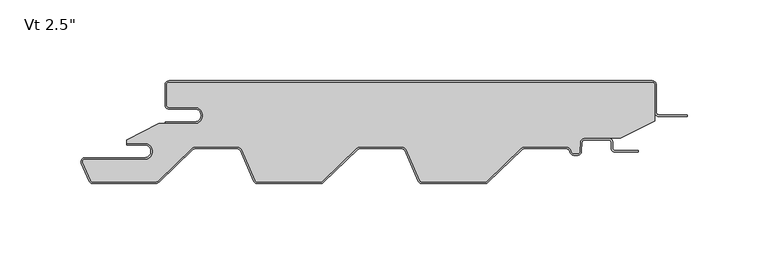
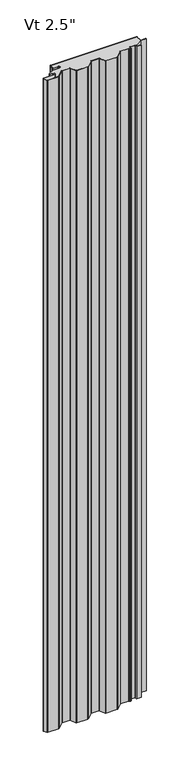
"""IFC4 building model written with IfcOpenShell, lengths in millimetres: plate geometry."""

from ifc_helpers import new_model, si_unit, point, frame_2d, origin, origin_with_axes, place, context, project, spatial, polyline, circle_curve, trimmed, segment, composite_curve, outline, extrude, source, transform, mapped, element, save


def plate_76acf641(model_context):
    return source(origin(), model_context, "Body", "SweptSolid", [
        extrude(outline(composite_curve([segment(trimmed(circle_curve(frame_2d((-133.34375, -21.4324412)), 4.96875), [point((-133.34375, -26.4011912))], [point((-133.34375, -16.4636912))], True, "CARTESIAN"), True, "CONTINUOUS"), segment(polyline([(-133.34375, -16.4636912), (-149.21875, -16.4636912)]), True, "CONTINUOUS"), segment(trimmed(circle_curve(frame_2d((-149.21875, -15.0824412)), 1.38125), [point((-149.21875, -16.4636912))], [point((-150.6, -15.0824412))], False, "CARTESIAN"), True, "CONTINUOUS"), segment(polyline([(-150.6, -15.0824412), (-150.6, -2.3824412)]), True, "CONTINUOUS"), segment(trimmed(circle_curve(frame_2d((-149.21875, -2.3824412)), 1.38125), [point((-150.6, -2.3824412))], [point((-149.21875, -1.0011912))], False, "CARTESIAN"), True, "CONTINUOUS"), segment(polyline([(-149.21875, -1.0011912), (149.23125, -1.0011912)]), True, "CONTINUOUS"), segment(trimmed(circle_curve(frame_2d((149.23125, -2.3824412)), 1.38125), [point((149.23125, -1.0011912))], [point((150.6125, -2.3824412))], False, "CARTESIAN"), True, "CONTINUOUS"), segment(polyline([(150.6125, -2.3824412), (150.6125, -24.8719682), (129.7955434, -35.5136912), (107.3683457, -35.5136912)]), True, "CONTINUOUS"), segment(trimmed(circle_curve(frame_2d((107.3683457, -38.1011912)), 2.5875), [point((107.3683457, -35.5136912))], [point((104.7843918, -37.9657719))], True, "CARTESIAN"), True, "CONTINUOUS"), segment(polyline([(104.7843918, -37.9657719), (104.4823155, -43.7297302)]), True, "CONTINUOUS"), segment(trimmed(circle_curve(frame_2d((103.1029585, -43.6574412)), 1.38125), [point((104.4823155, -43.7297302))], [point((103.1029585, -45.0386912))], False, "CARTESIAN"), True, "CONTINUOUS"), segment(polyline([(103.1029585, -45.0386912), (100.7754519, -45.0386912)]), True, "CONTINUOUS"), segment(trimmed(circle_curve(frame_2d((100.7754519, -43.6574412)), 1.38125), [point((100.7754519, -45.0386912))], [point((99.5124516, -44.2166208))], False, "CARTESIAN"), True, "CONTINUOUS"), segment(polyline([(99.5124516, -44.2166208), (98.7640306, -42.5261871)]), True, "CONTINUOUS"), segment(trimmed(circle_curve(frame_2d((96.3980481, -43.5737)), 2.5875), [point((98.7640306, -42.5261871))], [point((96.3980481, -40.9862))], True, "CARTESIAN"), True, "CONTINUOUS"), segment(polyline([(96.3980481, -40.9862), (69.8742003, -40.9862)]), True, "CONTINUOUS"), segment(trimmed(circle_curve(frame_2d((69.8742003, -43.5737)), 2.5875), [point((69.8742003, -40.9862))], [point((68.0745496, -41.7145567))], True, "CARTESIAN"), True, "CONTINUOUS"), segment(polyline([(68.0745496, -41.7145567), (47.0036462, -62.1111912)]), True, "CONTINUOUS"), segment(trimmed(circle_curve(frame_2d((46.0429631, -61.11875)), 1.38125), [point((47.0036462, -62.1111912))], [point((46.0429631, -62.5))], False, "CARTESIAN"), True, "CONTINUOUS"), segment(polyline([(46.0429631, -62.5), (6.9062557, -62.5)]), True, "CONTINUOUS"), segment(trimmed(circle_curve(frame_2d((6.9062557, -61.11875)), 1.38125), [point((6.9062557, -62.5))], [point((5.6432554, -61.6779296))], False, "CARTESIAN"), True, "CONTINUOUS"), segment(polyline([(5.6432554, -61.6779296), (-2.8359694, -42.5261871)]), True, "CONTINUOUS"), segment(trimmed(circle_curve(frame_2d((-5.2019519, -43.5737)), 2.5875), [point((-2.8359694, -42.5261871))], [point((-5.2019519, -40.9862))], True, "CARTESIAN"), True, "CONTINUOUS"), segment(polyline([(-5.2019519, -40.9862), (-31.7257997, -40.9862)]), True, "CONTINUOUS"), segment(trimmed(circle_curve(frame_2d((-31.7257997, -43.5737)), 2.5875), [point((-31.7257997, -40.9862))], [point((-33.5254504, -41.7145567))], True, "CARTESIAN"), True, "CONTINUOUS"), segment(polyline([(-33.5254504, -41.7145567), (-54.5963538, -62.1111912)]), True, "CONTINUOUS"), segment(trimmed(circle_curve(frame_2d((-55.5570369, -61.11875)), 1.38125), [point((-54.5963538, -62.1111912))], [point((-55.5570369, -62.5))], False, "CARTESIAN"), True, "CONTINUOUS"), segment(polyline([(-55.5570369, -62.5), (-94.6937443, -62.5)]), True, "CONTINUOUS"), segment(trimmed(circle_curve(frame_2d((-94.6937443, -61.11875)), 1.38125), [point((-94.6937443, -62.5))], [point((-95.9567446, -61.6779296))], False, "CARTESIAN"), True, "CONTINUOUS"), segment(polyline([(-95.9567446, -61.6779296), (-104.4359694, -42.5261871)]), True, "CONTINUOUS"), segment(trimmed(circle_curve(frame_2d((-106.8019519, -43.5737)), 2.5875), [point((-104.4359694, -42.5261871))], [point((-106.8019519, -40.9862))], True, "CARTESIAN"), True, "CONTINUOUS"), segment(polyline([(-106.8019519, -40.9862), (-133.3257997, -40.9862)]), True, "CONTINUOUS"), segment(trimmed(circle_curve(frame_2d((-133.3257997, -43.5737)), 2.5875), [point((-133.3257997, -40.9862))], [point((-135.1254504, -41.7145567))], True, "CARTESIAN"), True, "CONTINUOUS"), segment(polyline([(-135.1254504, -41.7145567), (-155.9876931, -61.9092077)]), True, "CONTINUOUS"), segment(trimmed(circle_curve(frame_2d((-157.4474446, -60.4012)), 2.0988), [point((-155.9876931, -61.9092077))], [point((-157.4474446, -62.5))], False, "CARTESIAN"), True, "CONTINUOUS"), segment(polyline([(-157.4474446, -62.5), (-196.2937443, -62.5)]), True, "CONTINUOUS"), segment(trimmed(circle_curve(frame_2d((-196.2937443, -61.11875)), 1.38125), [point((-196.2937443, -62.5))], [point((-197.5567446, -61.6779296))], False, "CARTESIAN"), True, "CONTINUOUS"), segment(polyline([(-197.5567446, -61.6779296), (-202.4761552, -50.5666208)]), True, "CONTINUOUS"), segment(trimmed(circle_curve(frame_2d((-201.2131549, -50.0074412)), 1.38125), [point((-202.4761552, -50.5666208))], [point((-201.2131549, -48.6261912))], False, "CARTESIAN"), True, "CONTINUOUS"), segment(polyline([(-201.2131549, -48.6261912), (-164.3, -48.6261912)]), True, "CONTINUOUS"), segment(trimmed(circle_curve(frame_2d((-164.3, -43.6574412)), 4.96875), [point((-164.3, -48.6261912))], [point((-164.3, -38.6886912))], True, "CARTESIAN"), True, "CONTINUOUS"), segment(polyline([(-164.3, -38.6886912), (-175.4125, -38.6886912), (-175.4125, -36.533822), (-155.5914112, -26.4011912), (-133.34375, -26.4011912)]), True, "CONTINUOUS")], self_intersect=False)), origin_with_axes(), (0.0, 0.0, 1.0), 2400.0),
        extrude(outline(composite_curve([segment(polyline([(-151.6, -25.4), (-133.34375, -25.4)]), True, "CONTINUOUS"), segment(trimmed(circle_curve(frame_2d((-133.34375, -21.43125)), 3.96875), [point((-133.34375, -25.4))], [point((-133.34375, -17.4625))], True, "CARTESIAN"), True, "CONTINUOUS"), segment(polyline([(-133.34375, -17.4625), (-149.21875, -17.4625)]), True, "CONTINUOUS"), segment(trimmed(circle_curve(frame_2d((-149.21875, -15.08125)), 2.38125), [point((-149.21875, -17.4625))], [point((-151.6, -15.08125))], False, "CARTESIAN"), True, "CONTINUOUS"), segment(polyline([(-151.6, -15.08125), (-151.6, -2.38125)]), True, "CONTINUOUS"), segment(trimmed(circle_curve(frame_2d((-149.21875, -2.38125)), 2.38125), [point((-151.6, -2.38125))], [point((-149.21875, 0.0))], False, "CARTESIAN"), True, "CONTINUOUS"), segment(polyline([(-149.21875, 0.0), (149.23125, 0.0)]), True, "CONTINUOUS"), segment(trimmed(circle_curve(frame_2d((149.23125, -2.38125)), 2.38125), [point((149.23125, 0.0))], [point((151.6125, -2.38125))], False, "CARTESIAN"), True, "CONTINUOUS"), segment(polyline([(151.6125, -2.38125), (151.6125, -19.446875)]), True, "CONTINUOUS"), segment(trimmed(circle_curve(frame_2d((153.2, -19.446875)), 1.5875), [point((151.6125, -19.446875))], [point((153.2, -21.034375))], True, "CARTESIAN"), True, "CONTINUOUS"), segment(polyline([(153.2, -21.034375), (170.6625, -21.034375), (170.6625, -22.034375), (153.2, -22.034375)]), True, "CONTINUOUS"), segment(trimmed(circle_curve(frame_2d((153.2, -19.446875)), 2.5875), [point((153.2, -22.034375))], [point((150.6125, -19.446875))], False, "CARTESIAN"), True, "CONTINUOUS"), segment(polyline([(150.6125, -19.446875), (150.6125, -2.38125)]), True, "CONTINUOUS"), segment(trimmed(circle_curve(frame_2d((149.23125, -2.38125)), 1.38125), [point((150.6125, -2.38125))], [point((149.23125, -1.0))], True, "CARTESIAN"), True, "CONTINUOUS"), segment(polyline([(149.23125, -1.0), (-149.21875, -1.0)]), True, "CONTINUOUS"), segment(trimmed(circle_curve(frame_2d((-149.21875, -2.38125)), 1.38125), [point((-149.21875, -1.0))], [point((-150.6, -2.38125))], True, "CARTESIAN"), True, "CONTINUOUS"), segment(polyline([(-150.6, -2.38125), (-150.6, -15.08125)]), True, "CONTINUOUS"), segment(trimmed(circle_curve(frame_2d((-149.21875, -15.08125)), 1.38125), [point((-150.6, -15.08125))], [point((-149.21875, -16.4625))], True, "CARTESIAN"), True, "CONTINUOUS"), segment(polyline([(-149.21875, -16.4625), (-133.34375, -16.4625)]), True, "CONTINUOUS"), segment(trimmed(circle_curve(frame_2d((-133.34375, -21.43125)), 4.96875), [point((-133.34375, -16.4625))], [point((-133.34375, -26.4))], False, "CARTESIAN"), True, "CONTINUOUS"), segment(polyline([(-133.34375, -26.4), (-151.6, -26.4), (-151.6, -25.4)]), True, "CONTINUOUS")], self_intersect=False)), origin_with_axes(), (0.0, 0.0, 1.0), 2400.0),
        extrude(outline(composite_curve([segment(trimmed(circle_curve(frame_2d((-164.3, -43.6574412)), 3.96875), [point((-164.3, -47.6261912))], [point((-164.3, -39.6886912))], True, "CARTESIAN"), True, "CONTINUOUS"), segment(polyline([(-164.3, -39.6886912), (-175.4125, -39.6886912), (-175.4125, -38.6886912), (-164.3, -38.6886912)]), True, "CONTINUOUS"), segment(trimmed(circle_curve(frame_2d((-164.3, -43.6574412)), 4.96875), [point((-164.3, -38.6886912))], [point((-164.3, -48.6261912))], False, "CARTESIAN"), True, "CONTINUOUS"), segment(polyline([(-164.3, -48.6261912), (-201.2131549, -48.6261912)]), True, "CONTINUOUS"), segment(trimmed(circle_curve(frame_2d((-201.2131549, -50.0074412)), 1.38125), [point((-201.2131549, -48.6261912))], [point((-202.4761552, -50.5666208))], True, "CARTESIAN"), True, "CONTINUOUS"), segment(polyline([(-202.4761552, -50.5666208), (-197.5567446, -61.6779296)]), True, "CONTINUOUS"), segment(trimmed(circle_curve(frame_2d((-196.2937443, -61.11875)), 1.38125), [point((-197.5567446, -61.6779296))], [point((-196.2937443, -62.5))], True, "CARTESIAN"), True, "CONTINUOUS"), segment(polyline([(-196.2937443, -62.5), (-157.4474446, -62.5)]), True, "CONTINUOUS"), segment(trimmed(circle_curve(frame_2d((-157.4474446, -60.4012)), 2.0988), [point((-157.4474446, -62.5))], [point((-155.9876931, -61.9092077))], True, "CARTESIAN"), True, "CONTINUOUS"), segment(polyline([(-155.9876931, -61.9092077), (-135.1254504, -41.7145567)]), True, "CONTINUOUS"), segment(trimmed(circle_curve(frame_2d((-133.3257997, -43.5737)), 2.5875), [point((-135.1254504, -41.7145567))], [point((-133.3257997, -40.9862))], False, "CARTESIAN"), True, "CONTINUOUS"), segment(polyline([(-133.3257997, -40.9862), (-106.8019519, -40.9862)]), True, "CONTINUOUS"), segment(trimmed(circle_curve(frame_2d((-106.8019519, -43.5737)), 2.5875), [point((-106.8019519, -40.9862))], [point((-104.4359694, -42.5261871))], False, "CARTESIAN"), True, "CONTINUOUS"), segment(polyline([(-104.4359694, -42.5261871), (-95.9567446, -61.6779296)]), True, "CONTINUOUS"), segment(trimmed(circle_curve(frame_2d((-94.6937443, -61.11875)), 1.38125), [point((-95.9567446, -61.6779296))], [point((-94.6937443, -62.5))], True, "CARTESIAN"), True, "CONTINUOUS"), segment(polyline([(-94.6937443, -62.5), (-55.5570369, -62.5)]), True, "CONTINUOUS"), segment(trimmed(circle_curve(frame_2d((-55.5570369, -61.11875)), 1.38125), [point((-55.5570369, -62.5))], [point((-54.5963538, -62.1111912))], True, "CARTESIAN"), True, "CONTINUOUS"), segment(polyline([(-54.5963538, -62.1111912), (-33.5254504, -41.7145567)]), True, "CONTINUOUS"), segment(trimmed(circle_curve(frame_2d((-31.7257997, -43.5737)), 2.5875), [point((-33.5254504, -41.7145567))], [point((-31.7257997, -40.9862))], False, "CARTESIAN"), True, "CONTINUOUS"), segment(polyline([(-31.7257997, -40.9862), (-5.2019519, -40.9862)]), True, "CONTINUOUS"), segment(trimmed(circle_curve(frame_2d((-5.2019519, -43.5737)), 2.5875), [point((-5.2019519, -40.9862))], [point((-2.8359694, -42.5261871))], False, "CARTESIAN"), True, "CONTINUOUS"), segment(polyline([(-2.8359694, -42.5261871), (5.6432554, -61.6779296)]), True, "CONTINUOUS"), segment(trimmed(circle_curve(frame_2d((6.9062557, -61.11875)), 1.38125), [point((5.6432554, -61.6779296))], [point((6.9062557, -62.5))], True, "CARTESIAN"), True, "CONTINUOUS"), segment(polyline([(6.9062557, -62.5), (46.0429631, -62.5)]), True, "CONTINUOUS"), segment(trimmed(circle_curve(frame_2d((46.0429631, -61.11875)), 1.38125), [point((46.0429631, -62.5))], [point((47.0036462, -62.1111912))], True, "CARTESIAN"), True, "CONTINUOUS"), segment(polyline([(47.0036462, -62.1111912), (68.0745496, -41.7145567)]), True, "CONTINUOUS"), segment(trimmed(circle_curve(frame_2d((69.8742003, -43.5737)), 2.5875), [point((68.0745496, -41.7145567))], [point((69.8742003, -40.9862))], False, "CARTESIAN"), True, "CONTINUOUS"), segment(polyline([(69.8742003, -40.9862), (96.3980481, -40.9862)]), True, "CONTINUOUS"), segment(trimmed(circle_curve(frame_2d((96.3980481, -43.5737)), 2.5875), [point((96.3980481, -40.9862))], [point((98.7640306, -42.5261871))], False, "CARTESIAN"), True, "CONTINUOUS"), segment(polyline([(98.7640306, -42.5261871), (99.5124516, -44.2166208)]), True, "CONTINUOUS"), segment(trimmed(circle_curve(frame_2d((100.7754519, -43.6574412)), 1.38125), [point((99.5124516, -44.2166208))], [point((100.7754519, -45.0386912))], True, "CARTESIAN"), True, "CONTINUOUS"), segment(polyline([(100.7754519, -45.0386912), (103.1029585, -45.0386912)]), True, "CONTINUOUS"), segment(trimmed(circle_curve(frame_2d((103.1029585, -43.6574412)), 1.38125), [point((103.1029585, -45.0386912))], [point((104.4823155, -43.7297302))], True, "CARTESIAN"), True, "CONTINUOUS"), segment(polyline([(104.4823155, -43.7297302), (104.7843918, -37.9657719)]), True, "CONTINUOUS"), segment(trimmed(circle_curve(frame_2d((107.3683457, -38.1011912)), 2.5875), [point((104.7843918, -37.9657719))], [point((107.3683457, -35.5136912))], False, "CARTESIAN"), True, "CONTINUOUS"), segment(polyline([(107.3683457, -35.5136912), (122.24375, -35.5136912)]), True, "CONTINUOUS"), segment(trimmed(circle_curve(frame_2d((122.24375, -38.1011912)), 2.5875), [point((122.24375, -35.5136912))], [point((124.83125, -38.1011912))], False, "CARTESIAN"), True, "CONTINUOUS"), segment(polyline([(124.83125, -38.1011912), (124.83125, -41.6730662)]), True, "CONTINUOUS"), segment(trimmed(circle_curve(frame_2d((126.2125, -41.6730662)), 1.38125), [point((124.83125, -41.6730662))], [point((126.2125, -43.0543162))], True, "CARTESIAN"), True, "CONTINUOUS"), segment(polyline([(126.2125, -43.0543162), (140.5, -43.0543162), (140.5, -44.0543162), (126.2125, -44.0543162)]), True, "CONTINUOUS"), segment(trimmed(circle_curve(frame_2d((126.2125, -41.6730662)), 2.38125), [point((126.2125, -44.0543162))], [point((123.83125, -41.6730662))], False, "CARTESIAN"), True, "CONTINUOUS"), segment(polyline([(123.83125, -41.6730662), (123.83125, -38.1011912)]), True, "CONTINUOUS"), segment(trimmed(circle_curve(frame_2d((122.24375, -38.1011912)), 1.5875), [point((123.83125, -38.1011912))], [point((122.24375, -36.5136912))], True, "CARTESIAN"), True, "CONTINUOUS"), segment(polyline([(122.24375, -36.5136912), (107.3683457, -36.5136912)]), True, "CONTINUOUS"), segment(trimmed(circle_curve(frame_2d((107.3683457, -38.1011912)), 1.5875), [point((107.3683457, -36.5136912))], [point((105.7830213, -38.0181078))], True, "CARTESIAN"), True, "CONTINUOUS"), segment(polyline([(105.7830213, -38.0181078), (105.4809451, -43.7820662)]), True, "CONTINUOUS"), segment(trimmed(circle_curve(frame_2d((103.1029585, -43.6574412)), 2.38125), [point((105.4809451, -43.7820662))], [point((103.1029585, -46.0386912))], False, "CARTESIAN"), True, "CONTINUOUS"), segment(polyline([(103.1029585, -46.0386912), (100.7754519, -46.0386912)]), True, "CONTINUOUS"), segment(trimmed(circle_curve(frame_2d((100.7754519, -43.6574412)), 2.38125), [point((100.7754519, -46.0386912))], [point((98.5980623, -44.6214567))], False, "CARTESIAN"), True, "CONTINUOUS"), segment(polyline([(98.5980623, -44.6214567), (97.8496412, -42.931023)]), True, "CONTINUOUS"), segment(trimmed(circle_curve(frame_2d((96.3980481, -43.5737)), 1.5875), [point((97.8496412, -42.931023))], [point((96.3980481, -41.9862))], True, "CARTESIAN"), True, "CONTINUOUS"), segment(polyline([(96.3980481, -41.9862), (69.8742003, -41.9862)]), True, "CONTINUOUS"), segment(trimmed(circle_curve(frame_2d((69.8742003, -43.5737)), 1.5875), [point((69.8742003, -41.9862))], [point((68.7700668, -42.4330662))], True, "CARTESIAN"), True, "CONTINUOUS"), segment(polyline([(68.7700668, -42.4330662), (47.6991634, -62.8297007)]), True, "CONTINUOUS"), segment(trimmed(circle_curve(frame_2d((46.0429631, -61.11875)), 2.38125), [point((47.6991634, -62.8297007))], [point((46.0429631, -63.5))], False, "CARTESIAN"), True, "CONTINUOUS"), segment(polyline([(46.0429631, -63.5), (6.9062557, -63.5)]), True, "CONTINUOUS"), segment(trimmed(circle_curve(frame_2d((6.9062557, -61.11875)), 2.38125), [point((6.9062557, -63.5))], [point((4.7288661, -62.0827655))], False, "CARTESIAN"), True, "CONTINUOUS"), segment(polyline([(4.7288661, -62.0827655), (-3.7503588, -42.931023)]), True, "CONTINUOUS"), segment(trimmed(circle_curve(frame_2d((-5.2019519, -43.5737)), 1.5875), [point((-3.7503588, -42.931023))], [point((-5.2019519, -41.9862))], True, "CARTESIAN"), True, "CONTINUOUS"), segment(polyline([(-5.2019519, -41.9862), (-31.7257997, -41.9862)]), True, "CONTINUOUS"), segment(trimmed(circle_curve(frame_2d((-31.7257997, -43.5737)), 1.5875), [point((-31.7257997, -41.9862))], [point((-32.8299332, -42.4330662))], True, "CARTESIAN"), True, "CONTINUOUS"), segment(polyline([(-32.8299332, -42.4330662), (-53.9008366, -62.8297007)]), True, "CONTINUOUS"), segment(trimmed(circle_curve(frame_2d((-55.5570369, -61.11875)), 2.38125), [point((-53.9008366, -62.8297007))], [point((-55.5570369, -63.5))], False, "CARTESIAN"), True, "CONTINUOUS"), segment(polyline([(-55.5570369, -63.5), (-94.6937443, -63.5)]), True, "CONTINUOUS"), segment(trimmed(circle_curve(frame_2d((-94.6937443, -61.11875)), 2.38125), [point((-94.6937443, -63.5))], [point((-96.8711339, -62.0827655))], False, "CARTESIAN"), True, "CONTINUOUS"), segment(polyline([(-96.8711339, -62.0827655), (-105.3503588, -42.931023)]), True, "CONTINUOUS"), segment(trimmed(circle_curve(frame_2d((-106.8019519, -43.5737)), 1.5875), [point((-105.3503588, -42.931023))], [point((-106.8019519, -41.9862))], True, "CARTESIAN"), True, "CONTINUOUS"), segment(polyline([(-106.8019519, -41.9862), (-133.3257997, -41.9862)]), True, "CONTINUOUS"), segment(trimmed(circle_curve(frame_2d((-133.3257997, -43.5737)), 1.5875), [point((-133.3257997, -41.9862))], [point((-134.4299332, -42.4330662))], True, "CARTESIAN"), True, "CONTINUOUS"), segment(polyline([(-134.4299332, -42.4330662), (-155.2921759, -62.6277172)]), True, "CONTINUOUS"), segment(trimmed(circle_curve(frame_2d((-157.4474446, -60.4012)), 3.0988), [point((-155.2921759, -62.6277172))], [point((-157.4474446, -63.5))], False, "CARTESIAN"), True, "CONTINUOUS"), segment(polyline([(-157.4474446, -63.5), (-196.2937443, -63.5)]), True, "CONTINUOUS"), segment(trimmed(circle_curve(frame_2d((-196.2937443, -61.11875)), 2.38125), [point((-196.2937443, -63.5))], [point((-198.4711339, -62.0827655))], False, "CARTESIAN"), True, "CONTINUOUS"), segment(polyline([(-198.4711339, -62.0827655), (-203.3905446, -50.9714567)]), True, "CONTINUOUS"), segment(trimmed(circle_curve(frame_2d((-201.2131549, -50.0074412)), 2.38125), [point((-203.3905446, -50.9714567))], [point((-201.2131549, -47.6261912))], False, "CARTESIAN"), True, "CONTINUOUS"), segment(polyline([(-201.2131549, -47.6261912), (-164.3, -47.6261912)]), True, "CONTINUOUS")], self_intersect=False)), origin_with_axes(), (0.0, 0.0, 1.0), 2400.0),
    ])


if __name__ == "__main__":
    model = new_model("IFC4")
    model_context = context("Model", 3, world=origin())
    ifc_project = project(units=[si_unit("LENGTHUNIT", "METRE", prefix="MILLI")], contexts=[model_context])
    site = spatial("IfcSite", under=ifc_project)
    building = spatial("IfcBuilding", under=site)
    placement = place(None, origin())
    plate_shape = plate_76acf641(model_context)
    element("IfcPlate", 1, ObjectType="KIP-12-DWR-R19-CP-Vt-S : Vt 2.5\"", at=placement, inside=building, context=model_context, shape_type="MappedRepresentation", body=[
        mapped(plate_shape, transform((0.0, 0.0, 0.0), x_axis=(1.0, 0.0, 0.0), y_axis=(0.0, 1.0, 0.0), z_axis=(0.0, 0.0, 1.0))),
    ])
    save(model, "model.ifc")
